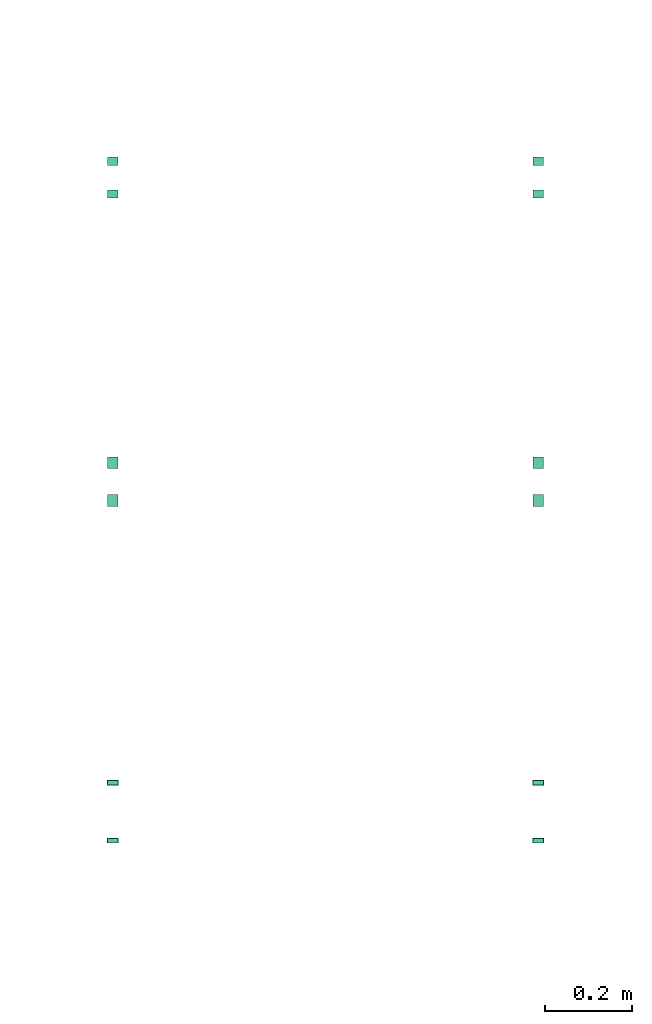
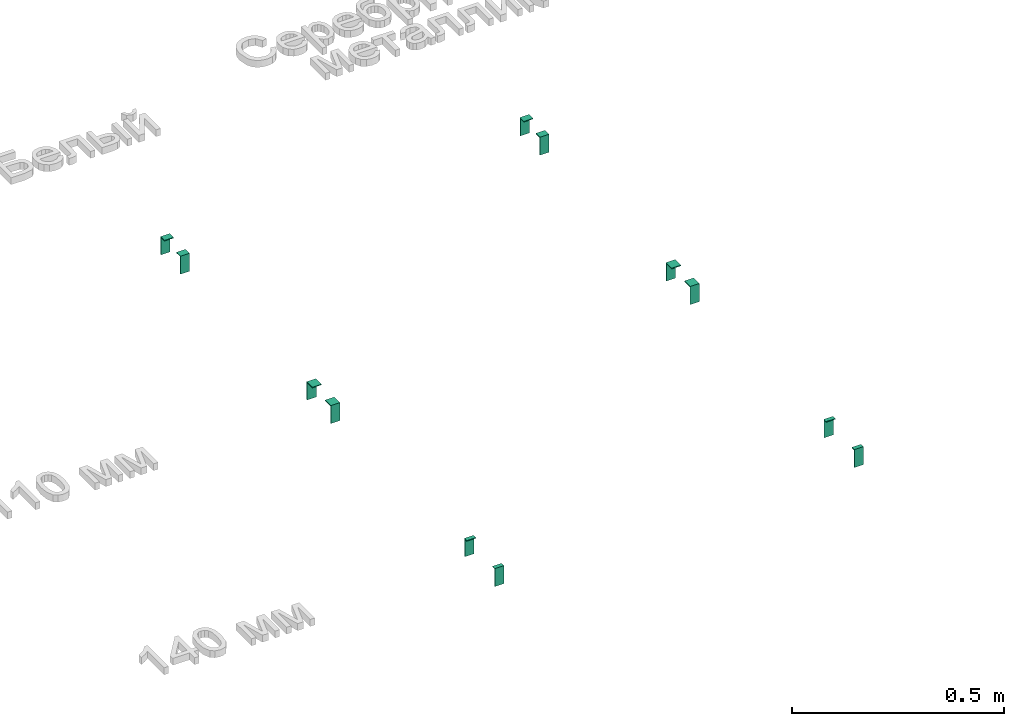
# One storey, part 11 of 87: 6 flow fittings.
"""IFC2X3 building model written with IfcOpenShell, lengths in millimetres."""

from ifc_helpers import new_model, entity, si_unit, converted_unit, derived_unit, direction, frame, origin, place, context, subcontext, project, spatial, polyline, outline, extrude, source, transform, mapped, material, type_object, type_shapes, element, save


model = new_model("IFC2X3")

# Units and contexts
model_context = context("Model", 3, precision=0.01, world=origin(), true_north=direction((6.12303176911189e-17, 1.0)))
body_context = subcontext(model_context, "Body", "Model", "MODEL_VIEW")
ifc_project = project(units=[si_unit("LENGTHUNIT", "METRE", prefix="MILLI"), si_unit("AREAUNIT", "SQUARE_METRE"), si_unit("VOLUMEUNIT", "CUBIC_METRE"), converted_unit("PLANEANGLEUNIT", "DEGREE", entity("IfcRatioMeasure", 0.0174532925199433), si_unit("PLANEANGLEUNIT", "RADIAN"), dimensions=[0, 0, 0, 0, 0, 0, 0]), si_unit("MASSUNIT", "GRAM", prefix="KILO"), derived_unit("MASSDENSITYUNIT", [(si_unit("MASSUNIT", "GRAM", prefix="KILO"), 1), (si_unit("LENGTHUNIT", "METRE"), -3)]), si_unit("TIMEUNIT", "SECOND"), si_unit("FREQUENCYUNIT", "HERTZ"), si_unit("THERMODYNAMICTEMPERATUREUNIT", "DEGREE_CELSIUS"), derived_unit("THERMALTRANSMITTANCEUNIT", [(si_unit("MASSUNIT", "GRAM", prefix="KILO"), 1), (si_unit("THERMODYNAMICTEMPERATUREUNIT", "KELVIN"), -1), (si_unit("TIMEUNIT", "SECOND"), -3)]), derived_unit("VOLUMETRICFLOWRATEUNIT", [(si_unit("LENGTHUNIT", "METRE"), 3), (si_unit("TIMEUNIT", "SECOND"), -1)]), si_unit("ELECTRICCURRENTUNIT", "AMPERE"), si_unit("ELECTRICVOLTAGEUNIT", "VOLT"), si_unit("POWERUNIT", "WATT"), si_unit("FORCEUNIT", "NEWTON", prefix="KILO"), si_unit("ILLUMINANCEUNIT", "LUX"), si_unit("LUMINOUSFLUXUNIT", "LUMEN"), si_unit("LUMINOUSINTENSITYUNIT", "CANDELA"), derived_unit("USERDEFINED", [(si_unit("MASSUNIT", "GRAM", prefix="KILO"), -1), (si_unit("LENGTHUNIT", "METRE"), -2), (si_unit("TIMEUNIT", "SECOND"), 3), (si_unit("LUMINOUSFLUXUNIT", "LUMEN"), 1)]), derived_unit("LINEARVELOCITYUNIT", [(si_unit("LENGTHUNIT", "METRE"), 1), (si_unit("TIMEUNIT", "SECOND"), -1)]), si_unit("PRESSUREUNIT", "PASCAL"), derived_unit("USERDEFINED", [(si_unit("LENGTHUNIT", "METRE"), -2), (si_unit("MASSUNIT", "GRAM", prefix="KILO"), 1), (si_unit("TIMEUNIT", "SECOND"), -2)])], contexts=[model_context])

# Site, building, storey
site_placement = place(None, origin())
site = spatial("IfcSite", under=ifc_project, at=site_placement, Name="Default", CompositionType="ELEMENT")
building_placement = place(site_placement, origin())
building = spatial("IfcBuilding", under=site, at=building_placement, Name="Наименование здания", CompositionType="ELEMENT")
storey_placement = place(building_placement, origin())
storey = spatial("IfcBuildingStorey", under=building, at=storey_placement, Name="Этаж 01", CompositionType="ELEMENT", Elevation=0.0)

# Flow fittings
ifc_material_1 = material(Name="DKC_Пластик_Белый")
cable_carrier_fitting_type_1 = type_object("IfcCableCarrierFittingType", Name="Белый", PredefinedType="NOTDEFINED", material=ifc_material_1)
shared_shape_1 = source(origin(), body_context, "Body", "SweptSolid", [
    extrude(outline(polyline([(-34.0, -6.93333333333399), (18.0, -6.93333333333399), (18.0, 11.866666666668), (16.0, 11.866666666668), (16.0, -4.93333333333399), (-34.0, -4.93333333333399), (-34.0, -6.93333333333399)])), frame((-12.4999999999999, 40.0666666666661, 9.0), z_axis=(1.0, 0.0, 0.0), x_axis=(0.0, 0.0, 1.0)), (0.0, 0.0, 1.0), 25.0),
    extrude(outline(polyline([(-6.93333333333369, -34.0), (-4.93333333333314, -34.0), (-4.93333333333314, 16.0), (11.8666666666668, 16.0), (11.8666666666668, 18.0), (-6.93333333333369, 18.0), (-6.93333333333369, -34.0)])), frame((-12.5000000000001, -40.0666666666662, 9.0), z_axis=(1.0, 0.0, 0.0), x_axis=(0.0, 1.0, 0.0)), (0.0, 0.0, 1.0), 25.0),
])
type_shapes(cable_carrier_fitting_type_1, [shared_shape_1])
flow_fitting_1_placement = place(storey_placement, frame((13103.6289354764, -407.877967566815, 0.0)))
element("IfcFlowFitting", 1, at=flow_fitting_1_placement, inside=storey, type_object=cable_carrier_fitting_type_1, material=ifc_material_1, Name="КНС_НакладкаНаСтыкПрофилейКоробов_ILF_DKC:Белый", ObjectType="Белый", context=body_context, shape_type="MappedRepresentation", body=[
    mapped(shared_shape_1, transform((0.0, 0.0, 0.0), scale=1.0)),
])
ifc_material_2 = material(Name="DKC_Пластик_СерыйМеталлик")
cable_carrier_fitting_type_2 = type_object("IfcCableCarrierFittingType", Name="Серебристый металлик", PredefinedType="NOTDEFINED", material=ifc_material_2)
shared_shape_2 = source(origin(), body_context, "Body", "SweptSolid", [
    extrude(outline(polyline([(-34.0, -6.93333333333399), (18.0, -6.93333333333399), (18.0, 11.866666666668), (16.0, 11.866666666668), (16.0, -4.93333333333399), (-34.0, -4.93333333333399), (-34.0, -6.93333333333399)])), frame((-12.4999999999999, 40.0666666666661, 9.0), z_axis=(1.0, 0.0, 0.0), x_axis=(0.0, 0.0, 1.0)), (0.0, 0.0, 1.0), 25.0),
    extrude(outline(polyline([(-6.93333333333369, -34.0), (-4.93333333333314, -34.0), (-4.93333333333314, 16.0), (11.8666666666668, 16.0), (11.8666666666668, 18.0), (-6.93333333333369, 18.0), (-6.93333333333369, -34.0)])), frame((-12.5000000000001, -40.0666666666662, 9.0), z_axis=(1.0, 0.0, 0.0), x_axis=(0.0, 1.0, 0.0)), (0.0, 0.0, 1.0), 25.0),
])
type_shapes(cable_carrier_fitting_type_2, [shared_shape_2])
flow_fitting_2_placement = place(storey_placement, frame((14083.6289354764, -407.877967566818, 0.0)))
element("IfcFlowFitting", 2, at=flow_fitting_2_placement, inside=storey, type_object=cable_carrier_fitting_type_2, material=ifc_material_2, Name="КНС_НакладкаНаСтыкПрофилейКоробов_ILF_DKC:Серебристый металлик", ObjectType="Серебристый металлик", context=body_context, shape_type="MappedRepresentation", body=[
    mapped(shared_shape_2, transform((0.0, 0.0, 0.0), scale=1.0)),
])
cable_carrier_fitting_type_3 = type_object("IfcCableCarrierFittingType", Name="Белый", PredefinedType="NOTDEFINED", material=ifc_material_1)
shared_shape_3 = source(origin(), body_context, "Body", "SweptSolid", [
    extrude(outline(polyline([(-34.0, -9.60000000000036), (18.0, -9.60000000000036), (18.0, 17.2000000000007), (16.0, 17.2000000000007), (16.0, -7.60000000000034), (-34.0, -7.60000000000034), (-34.0, -9.60000000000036)])), frame((-12.4999999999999, 47.4000000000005, 9.0), z_axis=(1.0, 0.0, 0.0), x_axis=(0.0, 0.0, 1.0)), (0.0, 0.0, 1.0), 25.0),
    extrude(outline(polyline([(-9.59999999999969, -34.0), (-7.60000000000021, -34.0), (-7.60000000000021, 16.0), (17.1999999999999, 16.0), (17.1999999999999, 18.0), (-9.59999999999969, 18.0), (-9.59999999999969, -34.0)])), frame((-12.5000000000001, -47.3999999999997, 9.0), z_axis=(1.0, 0.0, 0.0), x_axis=(0.0, 1.0, 0.0)), (0.0, 0.0, 1.0), 25.0),
])
type_shapes(cable_carrier_fitting_type_3, [shared_shape_3])
flow_fitting_3_placement = place(storey_placement, frame((13103.6289354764, -1107.87796756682, 0.0)))
element("IfcFlowFitting", 3, at=flow_fitting_3_placement, inside=storey, type_object=cable_carrier_fitting_type_3, material=ifc_material_1, Name="КНС_НакладкаНаСтыкПрофилейКоробов_ILF_DKC:Белый", ObjectType="Белый", context=body_context, shape_type="MappedRepresentation", body=[
    mapped(shared_shape_3, transform((0.0, 0.0, 0.0), scale=1.0)),
])
cable_carrier_fitting_type_4 = type_object("IfcCableCarrierFittingType", Name="Серебристый металлик", PredefinedType="NOTDEFINED", material=ifc_material_2)
shared_shape_4 = source(origin(), body_context, "Body", "SweptSolid", [
    extrude(outline(polyline([(-34.0, -9.60000000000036), (18.0, -9.60000000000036), (18.0, 17.2000000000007), (16.0, 17.2000000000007), (16.0, -7.60000000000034), (-34.0, -7.60000000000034), (-34.0, -9.60000000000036)])), frame((-12.4999999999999, 47.4000000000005, 9.0), z_axis=(1.0, 0.0, 0.0), x_axis=(0.0, 0.0, 1.0)), (0.0, 0.0, 1.0), 25.0),
    extrude(outline(polyline([(-9.59999999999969, -34.0), (-7.60000000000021, -34.0), (-7.60000000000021, 16.0), (17.1999999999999, 16.0), (17.1999999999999, 18.0), (-9.59999999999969, 18.0), (-9.59999999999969, -34.0)])), frame((-12.5000000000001, -47.3999999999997, 9.0), z_axis=(1.0, 0.0, 0.0), x_axis=(0.0, 1.0, 0.0)), (0.0, 0.0, 1.0), 25.0),
])
type_shapes(cable_carrier_fitting_type_4, [shared_shape_4])
flow_fitting_4_placement = place(storey_placement, frame((14083.6289354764, -1107.87796756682, 0.0)))
element("IfcFlowFitting", 4, at=flow_fitting_4_placement, inside=storey, type_object=cable_carrier_fitting_type_4, material=ifc_material_2, Name="КНС_НакладкаНаСтыкПрофилейКоробов_ILF_DKC:Серебристый металлик", ObjectType="Серебристый металлик", context=body_context, shape_type="MappedRepresentation", body=[
    mapped(shared_shape_4, transform((0.0, 0.0, 0.0), scale=1.0)),
])
cable_carrier_fitting_type_5 = type_object("IfcCableCarrierFittingType", Name="Белый", PredefinedType="NOTDEFINED", material=ifc_material_1)
shared_shape_5 = source(origin(), body_context, "Body", "SweptSolid", [
    extrude(outline(polyline([(-34.0, -4.3333333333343), (18.0, -4.3333333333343), (18.0, 6.66666666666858), (16.0, 6.66666666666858), (16.0, -2.33333333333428), (-34.0, -2.33333333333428), (-34.0, -4.3333333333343)])), frame((-12.4999999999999, 67.6666666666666, 9.0), z_axis=(1.0, 0.0, 0.0), x_axis=(0.0, 0.0, 1.0)), (0.0, 0.0, 1.0), 25.0),
    extrude(outline(polyline([(-4.33333333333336, -34.0), (-2.33333333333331, -34.0), (-2.33333333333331, 16.0), (6.66666666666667, 16.0), (6.66666666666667, 18.0), (-4.33333333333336, 18.0), (-4.33333333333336, -34.0)])), frame((-12.5000000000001, -67.666666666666, 9.0), z_axis=(1.0, 0.0, 0.0), x_axis=(0.0, 1.0, 0.0)), (0.0, 0.0, 1.0), 25.0),
])
type_shapes(cable_carrier_fitting_type_5, [shared_shape_5])
flow_fitting_5_placement = place(storey_placement, frame((13103.6289354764, -1867.87796756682, 0.0)))
element("IfcFlowFitting", 5, at=flow_fitting_5_placement, inside=storey, type_object=cable_carrier_fitting_type_5, material=ifc_material_1, Name="КНС_НакладкаНаСтыкПрофилейКоробов_ILF_DKC:Белый", ObjectType="Белый", context=body_context, shape_type="MappedRepresentation", body=[
    mapped(shared_shape_5, transform((0.0, 0.0, 0.0), scale=1.0)),
])
cable_carrier_fitting_type_6 = type_object("IfcCableCarrierFittingType", Name="Серебристый металлик", PredefinedType="NOTDEFINED", material=ifc_material_2)
shared_shape_6 = source(origin(), body_context, "Body", "SweptSolid", [
    extrude(outline(polyline([(-34.0, -4.3333333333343), (18.0, -4.3333333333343), (18.0, 6.66666666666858), (16.0, 6.66666666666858), (16.0, -2.33333333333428), (-34.0, -2.33333333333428), (-34.0, -4.3333333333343)])), frame((-12.4999999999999, 67.6666666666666, 9.0), z_axis=(1.0, 0.0, 0.0), x_axis=(0.0, 0.0, 1.0)), (0.0, 0.0, 1.0), 25.0),
    extrude(outline(polyline([(-4.33333333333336, -34.0), (-2.33333333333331, -34.0), (-2.33333333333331, 16.0), (6.66666666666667, 16.0), (6.66666666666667, 18.0), (-4.33333333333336, 18.0), (-4.33333333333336, -34.0)])), frame((-12.5000000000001, -67.666666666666, 9.0), z_axis=(1.0, 0.0, 0.0), x_axis=(0.0, 1.0, 0.0)), (0.0, 0.0, 1.0), 25.0),
])
type_shapes(cable_carrier_fitting_type_6, [shared_shape_6])
flow_fitting_6_placement = place(storey_placement, frame((14083.6289354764, -1867.87796756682, 0.0)))
element("IfcFlowFitting", 6, at=flow_fitting_6_placement, inside=storey, type_object=cable_carrier_fitting_type_6, material=ifc_material_2, Name="КНС_НакладкаНаСтыкПрофилейКоробов_ILF_DKC:Серебристый металлик", ObjectType="Серебристый металлик", context=body_context, shape_type="MappedRepresentation", body=[
    mapped(shared_shape_6, transform((0.0, 0.0, 0.0), scale=1.0)),
])

save(model, "model.ifc")
